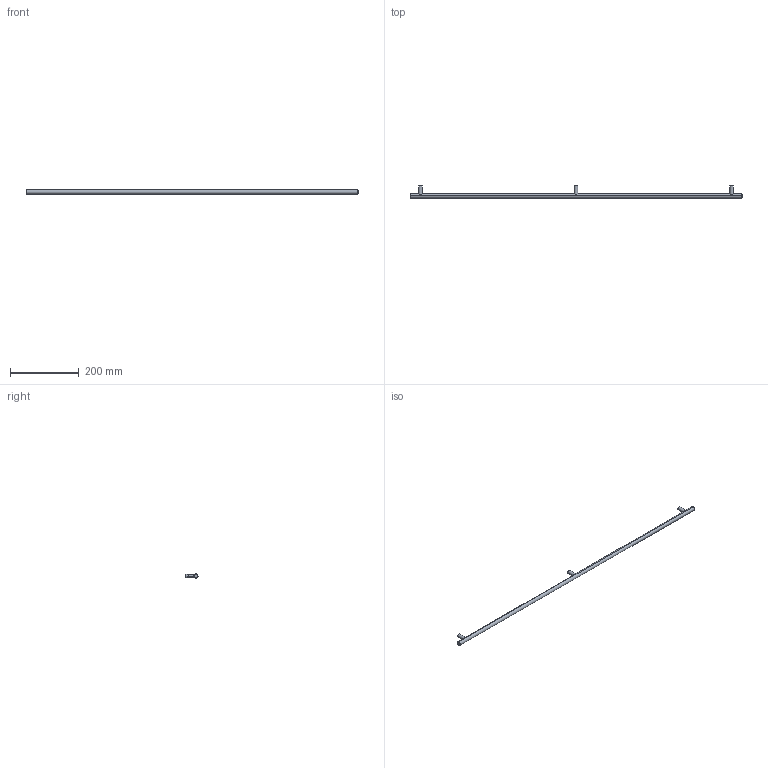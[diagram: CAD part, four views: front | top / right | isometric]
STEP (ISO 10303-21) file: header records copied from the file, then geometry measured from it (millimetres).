
FILE_DESCRIPTION( ( '' ), '1' );
FILE_NAME( 'C:/Documents and Settings/Sachin/Desktop/Sheet 10_1/stp/9070747.stp', '2013-10-22T12:29:10', ( '' ), ( '' ), ' ', ' ', ' ' );
FILE_SCHEMA( ( 'CONFIG_CONTROL_DESIGN' ) );
Length unit declared in the file: millimetre
Products named in the file (1): 1
Bounding box: 967 x 35 x 12 mm (x, y, z)
Volume: 114604 mm3; surface area: 39205.2 mm2
Topology: 1 solids, 1 shells, 26 faces, 57 edges, 39 vertices
Faces by surface type: cylinder 14, plane 8, torus 4
Entity records: 966 total; most frequent: CARTESIAN_POINT 324, DIRECTION 136, ORIENTED_EDGE 114, AXIS2_PLACEMENT_3D 61, EDGE_CURVE 57, VERTEX_POINT 39, CIRCLE 34, EDGE_LOOP 32
